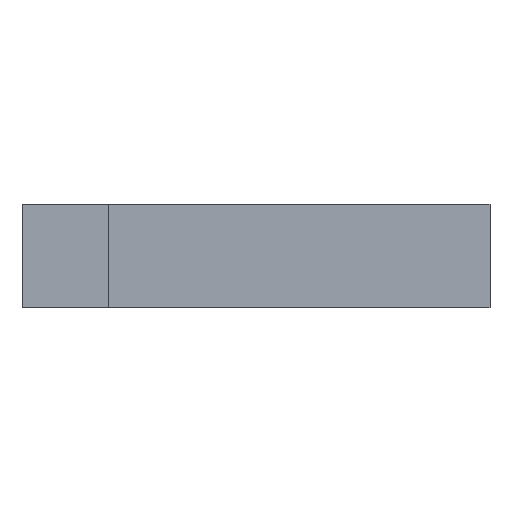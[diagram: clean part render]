
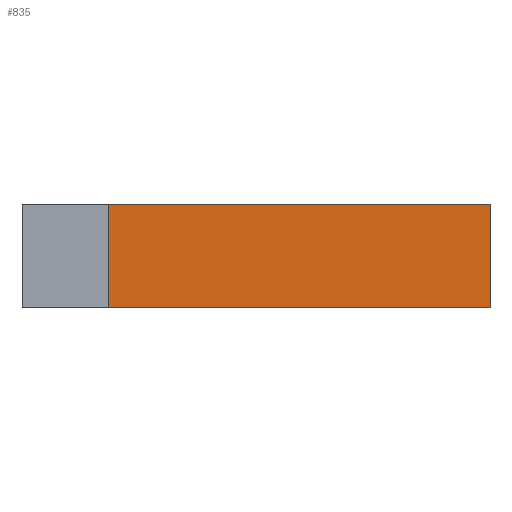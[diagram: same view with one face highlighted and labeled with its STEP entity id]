
A CAD part, front view. The second image highlights one B-rep face of the part: STEP entity #835.
In plain terms, the highlighted planar face has unit normal (0, -1, 0).
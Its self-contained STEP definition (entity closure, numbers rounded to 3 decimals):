
#24 = VERTEX_POINT('',#25);
#25 = CARTESIAN_POINT('',(-32.2,-7.8,11.15));
#32 = PLANE('',#33);
#33 = AXIS2_PLACEMENT_3D('',#34,#35,#36);
#34 = CARTESIAN_POINT('',(-30.71,5.7,11.15));
#35 = DIRECTION('',(0.,0.,1.));
#36 = DIRECTION('',(-1.,0.,0.));
#43 = PLANE('',#44);
#44 = AXIS2_PLACEMENT_3D('',#45,#46,#47);
#45 = CARTESIAN_POINT('',(-32.2,12.7,9.25));
#46 = DIRECTION('',(-1.,0.,0.));
#47 = DIRECTION('',(0.,0.,1.));
#195 = VERTEX_POINT('',#196);
#196 = CARTESIAN_POINT('',(-36.61,-7.8,11.15));
#210 = PLANE('',#211);
#211 = AXIS2_PLACEMENT_3D('',#212,#213,#214);
#212 = CARTESIAN_POINT('',(-36.61,0.7,9.95));
#213 = DIRECTION('',(-1.,0.,0.));
#214 = DIRECTION('',(0.,0.,1.));
#222 = EDGE_CURVE('',#24,#195,#223,.T.);
#223 = SURFACE_CURVE('',#224,(#228,#235),.PCURVE_S1.);
#224 = LINE('',#225,#226);
#225 = CARTESIAN_POINT('',(-30.71,-7.8,11.15));
#226 = VECTOR('',#227,1.);
#227 = DIRECTION('',(-1.,0.,0.));
#228 = PCURVE('',#32,#229);
#229 = DEFINITIONAL_REPRESENTATION('',(#230),#234);
#230 = LINE('',#231,#232);
#231 = CARTESIAN_POINT('',(0.,13.5));
#232 = VECTOR('',#233,1.);
#233 = DIRECTION('',(1.,0.));
#234 = ( GEOMETRIC_REPRESENTATION_CONTEXT(2) 
PARAMETRIC_REPRESENTATION_CONTEXT() REPRESENTATION_CONTEXT('2D SPACE',''
  ) );
#235 = PCURVE('',#236,#241);
#236 = PLANE('',#237);
#237 = AXIS2_PLACEMENT_3D('',#238,#239,#240);
#238 = CARTESIAN_POINT('',(-30.71,-7.8,9.95));
#239 = DIRECTION('',(0.,-1.,0.));
#240 = DIRECTION('',(0.,0.,1.));
#241 = DEFINITIONAL_REPRESENTATION('',(#242),#246);
#242 = LINE('',#243,#244);
#243 = CARTESIAN_POINT('',(1.2,0.));
#244 = VECTOR('',#245,1.);
#245 = DIRECTION('',(0.,1.));
#246 = ( GEOMETRIC_REPRESENTATION_CONTEXT(2) 
PARAMETRIC_REPRESENTATION_CONTEXT() REPRESENTATION_CONTEXT('2D SPACE',''
  ) );
#792 = VERTEX_POINT('',#793);
#793 = CARTESIAN_POINT('',(-32.2,-7.8,9.95));
#806 = PLANE('',#807);
#807 = AXIS2_PLACEMENT_3D('',#808,#809,#810);
#808 = CARTESIAN_POINT('',(-30.71,5.7,9.95));
#809 = DIRECTION('',(0.,0.,1.));
#810 = DIRECTION('',(-1.,0.,0.));
#817 = EDGE_CURVE('',#24,#792,#818,.T.);
#818 = SURFACE_CURVE('',#819,(#823,#829),.PCURVE_S1.);
#819 = LINE('',#820,#821);
#820 = CARTESIAN_POINT('',(-32.2,-7.8,9.6));
#821 = VECTOR('',#822,1.);
#822 = DIRECTION('',(-0.,0.,-1.));
#823 = PCURVE('',#43,#824);
#824 = DEFINITIONAL_REPRESENTATION('',(#825),#828);
#825 = B_SPLINE_CURVE_WITH_KNOTS('',1,(#826,#827),.UNSPECIFIED.,.F.,.F.,
  (2,2),(-1.55,-0.35),.PIECEWISE_BEZIER_KNOTS.);
#826 = CARTESIAN_POINT('',(1.9,-20.5));
#827 = CARTESIAN_POINT('',(0.7,-20.5));
#828 = ( GEOMETRIC_REPRESENTATION_CONTEXT(2) 
PARAMETRIC_REPRESENTATION_CONTEXT() REPRESENTATION_CONTEXT('2D SPACE',''
  ) );
#829 = PCURVE('',#236,#830);
#830 = DEFINITIONAL_REPRESENTATION('',(#831),#834);
#831 = B_SPLINE_CURVE_WITH_KNOTS('',1,(#832,#833),.UNSPECIFIED.,.F.,.F.,
  (2,2),(-1.55,-0.35),.PIECEWISE_BEZIER_KNOTS.);
#832 = CARTESIAN_POINT('',(1.2,1.49));
#833 = CARTESIAN_POINT('',(0.,1.49));
#834 = ( GEOMETRIC_REPRESENTATION_CONTEXT(2) 
PARAMETRIC_REPRESENTATION_CONTEXT() REPRESENTATION_CONTEXT('2D SPACE',''
  ) );
#835 = ADVANCED_FACE('',(#836),#236,.T.);
#836 = FACE_BOUND('',#837,.T.);
#837 = EDGE_LOOP('',(#838,#861,#862,#863));
#838 = ORIENTED_EDGE('',*,*,#839,.F.);
#839 = EDGE_CURVE('',#792,#840,#842,.T.);
#840 = VERTEX_POINT('',#841);
#841 = CARTESIAN_POINT('',(-36.61,-7.8,9.95));
#842 = SURFACE_CURVE('',#843,(#847,#854),.PCURVE_S1.);
#843 = LINE('',#844,#845);
#844 = CARTESIAN_POINT('',(-30.71,-7.8,9.95));
#845 = VECTOR('',#846,1.);
#846 = DIRECTION('',(-1.,0.,0.));
#847 = PCURVE('',#236,#848);
#848 = DEFINITIONAL_REPRESENTATION('',(#849),#853);
#849 = LINE('',#850,#851);
#850 = CARTESIAN_POINT('',(0.,0.));
#851 = VECTOR('',#852,1.);
#852 = DIRECTION('',(0.,1.));
#853 = ( GEOMETRIC_REPRESENTATION_CONTEXT(2) 
PARAMETRIC_REPRESENTATION_CONTEXT() REPRESENTATION_CONTEXT('2D SPACE',''
  ) );
#854 = PCURVE('',#806,#855);
#855 = DEFINITIONAL_REPRESENTATION('',(#856),#860);
#856 = LINE('',#857,#858);
#857 = CARTESIAN_POINT('',(0.,13.5));
#858 = VECTOR('',#859,1.);
#859 = DIRECTION('',(1.,0.));
#860 = ( GEOMETRIC_REPRESENTATION_CONTEXT(2) 
PARAMETRIC_REPRESENTATION_CONTEXT() REPRESENTATION_CONTEXT('2D SPACE',''
  ) );
#861 = ORIENTED_EDGE('',*,*,#817,.F.);
#862 = ORIENTED_EDGE('',*,*,#222,.T.);
#863 = ORIENTED_EDGE('',*,*,#864,.F.);
#864 = EDGE_CURVE('',#840,#195,#865,.T.);
#865 = SURFACE_CURVE('',#866,(#870,#877),.PCURVE_S1.);
#866 = LINE('',#867,#868);
#867 = CARTESIAN_POINT('',(-36.61,-7.8,9.95));
#868 = VECTOR('',#869,1.);
#869 = DIRECTION('',(0.,0.,1.));
#870 = PCURVE('',#236,#871);
#871 = DEFINITIONAL_REPRESENTATION('',(#872),#876);
#872 = LINE('',#873,#874);
#873 = CARTESIAN_POINT('',(0.,5.9));
#874 = VECTOR('',#875,1.);
#875 = DIRECTION('',(1.,0.));
#876 = ( GEOMETRIC_REPRESENTATION_CONTEXT(2) 
PARAMETRIC_REPRESENTATION_CONTEXT() REPRESENTATION_CONTEXT('2D SPACE',''
  ) );
#877 = PCURVE('',#210,#878);
#878 = DEFINITIONAL_REPRESENTATION('',(#879),#883);
#879 = LINE('',#880,#881);
#880 = CARTESIAN_POINT('',(0.,-8.5));
#881 = VECTOR('',#882,1.);
#882 = DIRECTION('',(1.,0.));
#883 = ( GEOMETRIC_REPRESENTATION_CONTEXT(2) 
PARAMETRIC_REPRESENTATION_CONTEXT() REPRESENTATION_CONTEXT('2D SPACE',''
  ) );
